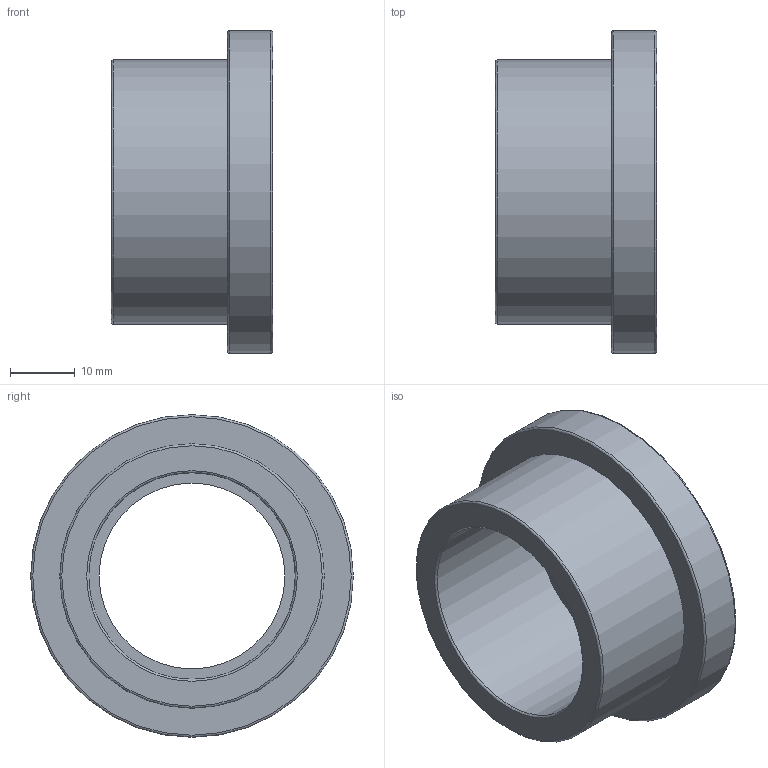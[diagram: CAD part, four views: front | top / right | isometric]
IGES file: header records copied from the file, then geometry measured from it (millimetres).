
Global section: file name: 055100032.ipt; native system: Autodesk Inventor 2015; preprocessor: unknown; author: KIM; date: 20180927.115418; units: millimetre
Bounding box: 25 x 50 x 50 mm (x, y, z)
Volume: 17847.4 mm3; surface area: 8438.2 mm2
Topology: 1 solids, 1 shells, 13 faces, 36 edges, 27 vertices
Faces by surface type: revolution 7, plane 4, cylinder 2
Full cylindrical faces by diameter (mm): 41 x1, 50 x1
